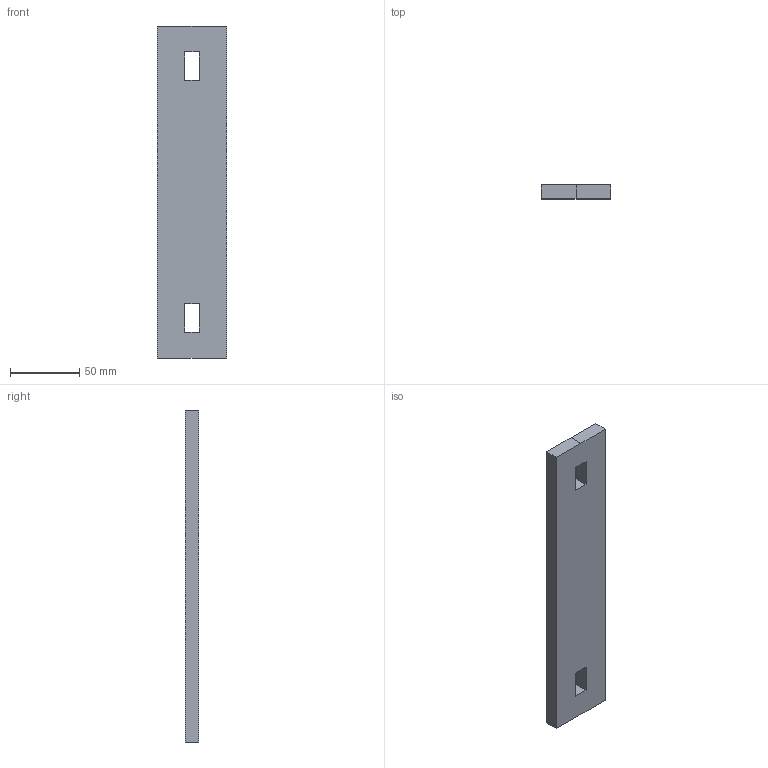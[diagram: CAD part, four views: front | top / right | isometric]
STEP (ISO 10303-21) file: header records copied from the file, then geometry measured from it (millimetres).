
FILE_DESCRIPTION(('CATIA V5 STEP Exchange'),'2;1');
FILE_NAME('C:\Users\gener\Documents\Lijadora Javitxu corte laser\Sufrider parte plana rev1.stp','2022-10-12T13:28:35+00:00',('none'),('none'),'CATIA Version 5 Release 20 GA (IN-10)','CATIA V5 STEP AP203','none');
FILE_SCHEMA(('CONFIG_CONTROL_DESIGN'));
Length unit declared in the file: millimetre
Products named in the file (1): Sufrider parte plana
Bounding box: 50 x 10 x 239.39 mm (x, y, z)
Volume: 115453.9 mm3; surface area: 30110.7 mm2
Topology: 1 solids, 1 shells, 16 faces, 42 edges, 28 vertices
Faces by surface type: plane 16
Entity records: 516 total; most frequent: ORIENTED_EDGE 84, CARTESIAN_POINT 83, DIRECTION 66, VECTOR 42, EDGE_CURVE 42, LINE 42, VERTEX_POINT 28, EDGE_LOOP 20
